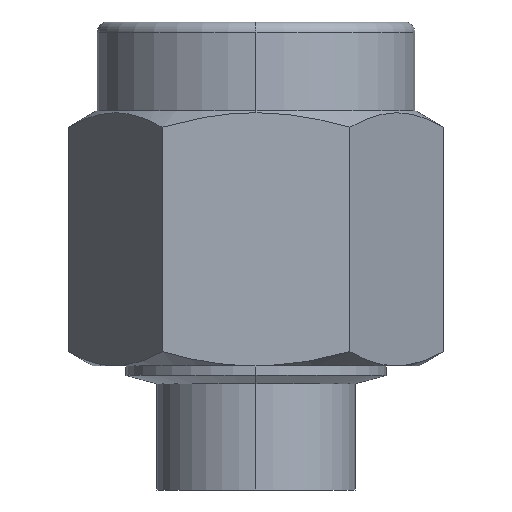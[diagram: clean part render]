
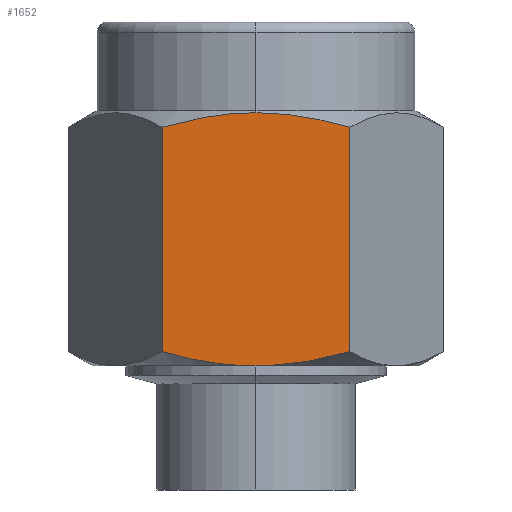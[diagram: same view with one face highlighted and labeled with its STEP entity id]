
A CAD part, left-side view. The second image highlights one B-rep face of the part: STEP entity #1652.
In plain terms, the highlighted planar face has unit normal (-1, 0, 0).
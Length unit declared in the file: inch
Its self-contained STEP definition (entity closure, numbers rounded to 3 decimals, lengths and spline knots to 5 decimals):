
#29 = B_SPLINE_CURVE_WITH_KNOTS ( 'NONE', 3,
 ( #806, #2042, #588, #1828, #389, #1612 ),
 .UNSPECIFIED., .F., .F.,
 ( 4, 2, 4 ),
 ( 0.00169, 0.00284, 0.004 ),
 .UNSPECIFIED. ) ;
#106 = CARTESIAN_POINT ( 'NONE',  ( -0.156, -0.03034, 0.03567 ) ) ;
#152 = EDGE_CURVE ( 'NONE', #1689, #1743, #2454, .T. ) ;
#182 = FACE_OUTER_BOUND ( 'NONE', #556, .T. ) ;
#230 = CARTESIAN_POINT ( 'NONE',  ( -0.156, 0.03621, -0.20406 ) ) ;
#336 = CARTESIAN_POINT ( 'NONE',  ( -0.156, -0.02248, -0.20555 ) ) ;
#370 = ORIENTED_EDGE ( 'NONE', *, *, #656, .F. ) ;
#378 = CARTESIAN_POINT ( 'NONE',  ( -0.156, -0.00883, -0.206 ) ) ;
#389 = CARTESIAN_POINT ( 'NONE',  ( -0.156, 0.01523, 0.03698 ) ) ;
#398 = VERTEX_POINT ( 'NONE', #1893 ) ;
#436 = CARTESIAN_POINT ( 'NONE',  ( -0.156, 0.07689, -0.19601 ) ) ;
#521 = VERTEX_POINT ( 'NONE', #1804 ) ;
#538 = CARTESIAN_POINT ( 'NONE',  ( -0.156, -0.09007, -0.19221 ) ) ;
#556 = EDGE_LOOP ( 'NONE', ( #926, #1009, #370, #1857, #2446, #2520, #1285 ) ) ;
#588 = CARTESIAN_POINT ( 'NONE',  ( -0.156, 0.06075, 0.03075 ) ) ;
#656 = EDGE_CURVE ( 'NONE', #521, #398, #29, .T. ) ;
#692 = DIRECTION ( 'NONE',  ( -1., 0., 0. ) ) ;
#698 = CARTESIAN_POINT ( 'NONE',  ( -0.156, -0.09007, -0.19221 ) ) ;
#706 = CARTESIAN_POINT ( 'NONE',  ( -0.156, 0.00883, -0.206 ) ) ;
#721 = AXIS2_PLACEMENT_3D ( 'NONE', #901, #692, #1021 ) ;
#742 = CARTESIAN_POINT ( 'NONE',  ( -0.156, -0.06333, -0.19929 ) ) ;
#806 = CARTESIAN_POINT ( 'NONE',  ( -0.156, 0.09007, 0.02305 ) ) ;
#836 = CARTESIAN_POINT ( 'NONE',  ( -0.156, 0.02249, -0.20555 ) ) ;
#854 = EDGE_CURVE ( 'NONE', #1848, #521, #1889, .T. ) ;
#901 = CARTESIAN_POINT ( 'NONE',  ( -0.156, -0.09007, 0.12705 ) ) ;
#926 = ORIENTED_EDGE ( 'NONE', *, *, #1289, .T. ) ;
#931 = EDGE_CURVE ( 'NONE', #398, #2261, #2177, .T. ) ;
#973 = VERTEX_POINT ( 'NONE', #706 ) ;
#1009 = ORIENTED_EDGE ( 'NONE', *, *, #931, .F. ) ;
#1021 = DIRECTION ( 'NONE',  ( 0., 0., 1. ) ) ;
#1053 = CARTESIAN_POINT ( 'NONE',  ( -0.156, 0.00883, -0.206 ) ) ;
#1124 = CARTESIAN_POINT ( 'NONE',  ( -0.156, -0.07542, 0.02727 ) ) ;
#1285 = ORIENTED_EDGE ( 'NONE', *, *, #152, .F. ) ;
#1289 = EDGE_CURVE ( 'NONE', #1689, #2261, #1921, .T. ) ;
#1296 = VECTOR ( 'NONE', #1319, 39.37008 ) ;
#1319 = DIRECTION ( 'NONE',  ( 0., 0., 1. ) ) ;
#1322 = CARTESIAN_POINT ( 'NONE',  ( -0.156, -0.06042, 0.03082 ) ) ;
#1356 = CARTESIAN_POINT ( 'NONE',  ( -0.156, -0.07684, -0.19603 ) ) ;
#1530 = CARTESIAN_POINT ( 'NONE',  ( -0.156, -0.09007, -0.34015 ) ) ;
#1535 = CARTESIAN_POINT ( 'NONE',  ( -0.156, -0.01522, 0.03698 ) ) ;
#1560 = CARTESIAN_POINT ( 'NONE',  ( -0.156, -0.00883, -0.206 ) ) ;
#1612 = CARTESIAN_POINT ( 'NONE',  ( -0.156, 0., 0.03698 ) ) ;
#1650 = CARTESIAN_POINT ( 'NONE',  ( -0.156, -0.09007, -0.206 ) ) ;
#1652 = ADVANCED_FACE ( 'NONE', ( #182 ), #2073, .T. ) ;
#1657 = CARTESIAN_POINT ( 'NONE',  ( -0.156, 0.06352, -0.19925 ) ) ;
#1689 = VERTEX_POINT ( 'NONE', #698 ) ;
#1736 = CARTESIAN_POINT ( 'NONE',  ( -0.156, 0., 0.03698 ) ) ;
#1737 = CARTESIAN_POINT ( 'NONE',  ( -0.156, 0.09007, -0.19221 ) ) ;
#1743 = VERTEX_POINT ( 'NONE', #378 ) ;
#1767 = CARTESIAN_POINT ( 'NONE',  ( -0.156, -0.03611, -0.20407 ) ) ;
#1804 = CARTESIAN_POINT ( 'NONE',  ( -0.156, 0.09007, 0.02305 ) ) ;
#1828 = CARTESIAN_POINT ( 'NONE',  ( -0.156, 0.03066, 0.03564 ) ) ;
#1848 = VERTEX_POINT ( 'NONE', #1737 ) ;
#1857 = ORIENTED_EDGE ( 'NONE', *, *, #854, .F. ) ;
#1864 = DIRECTION ( 'NONE',  ( 0., 1., 0. ) ) ;
#1873 = CARTESIAN_POINT ( 'NONE',  ( -0.156, 0.09007, -0.19221 ) ) ;
#1889 = LINE ( 'NONE', #2592, #2586 ) ;
#1893 = CARTESIAN_POINT ( 'NONE',  ( -0.156, 0., 0.03698 ) ) ;
#1921 = LINE ( 'NONE', #1530, #1296 ) ;
#1967 = DIRECTION ( 'NONE',  ( 0., 0., 1. ) ) ;
#2042 = CARTESIAN_POINT ( 'NONE',  ( -0.156, 0.0755, 0.02725 ) ) ;
#2047 = VECTOR ( 'NONE', #1864, 39.37008 ) ;
#2073 = PLANE ( 'NONE',  #721 ) ;
#2132 = EDGE_CURVE ( 'NONE', #1743, #973, #2519, .T. ) ;
#2146 = B_SPLINE_CURVE_WITH_KNOTS ( 'NONE', 3,
 ( #1053, #836, #230, #1657, #436, #1873 ),
 .UNSPECIFIED., .F., .F.,
 ( 4, 2, 4 ),
 ( 0.0055, 0.00654, 0.00759 ),
 .UNSPECIFIED. ) ;
#2177 = B_SPLINE_CURVE_WITH_KNOTS ( 'NONE', 3,
 ( #1736, #1535, #106, #1322, #1124, #2353 ),
 .UNSPECIFIED., .F., .F.,
 ( 4, 2, 4 ),
 ( 0.004, 0.00515, 0.0063 ),
 .UNSPECIFIED. ) ;
#2182 = EDGE_CURVE ( 'NONE', #973, #1848, #2146, .T. ) ;
#2261 = VERTEX_POINT ( 'NONE', #2300 ) ;
#2300 = CARTESIAN_POINT ( 'NONE',  ( -0.156, -0.09007, 0.02305 ) ) ;
#2353 = CARTESIAN_POINT ( 'NONE',  ( -0.156, -0.09007, 0.02305 ) ) ;
#2446 = ORIENTED_EDGE ( 'NONE', *, *, #2182, .F. ) ;
#2454 = B_SPLINE_CURVE_WITH_KNOTS ( 'NONE', 3,
 ( #538, #1356, #742, #1767, #336, #1560 ),
 .UNSPECIFIED., .F., .F.,
 ( 4, 2, 4 ),
 ( 0.00295, 0.004, 0.00504 ),
 .UNSPECIFIED. ) ;
#2519 = LINE ( 'NONE', #1650, #2047 ) ;
#2520 = ORIENTED_EDGE ( 'NONE', *, *, #2132, .F. ) ;
#2586 = VECTOR ( 'NONE', #1967, 39.37008 ) ;
#2592 = CARTESIAN_POINT ( 'NONE',  ( -0.156, 0.09007, -0.34015 ) ) ;
